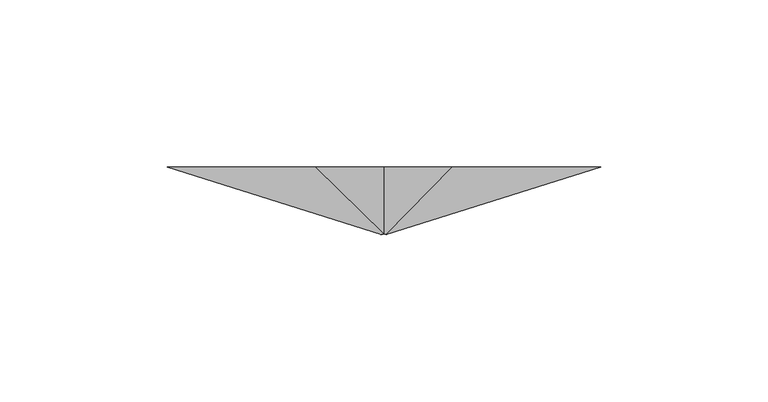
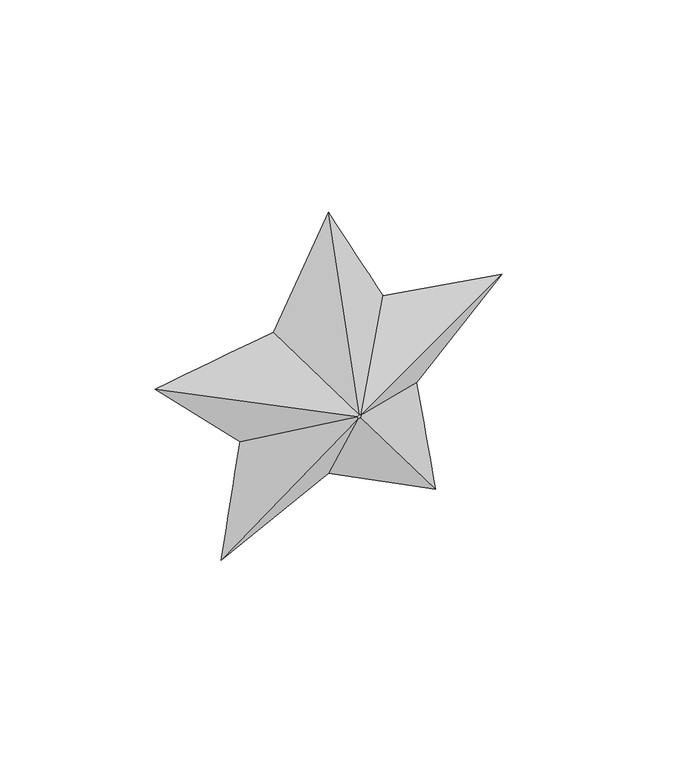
"""IFC4 building model written with IfcOpenShell, lengths in millimetres: furniture geometry, Гирлянда_звездочки_world_of_REVIT : Гирлянда звездочки_world_of_REVIT."""

import ifcopenshell
import ifcopenshell.guid

model = None  # the IFC model being written
_history = None  # IfcOwnerHistory: only IFC2X3 demands one
_inside = {}  # id of a spatial element -> (the spatial element, [elements in it])
_under = {}  # id of a project, library or spatial element -> (it, [spatial elements below it])
_declared = {}  # id of a project -> (the project, [libraries it declares])
_typed = {}  # id of a type object -> (the type object, [elements of that type])
_made_of = {}  # id of a material, layer set ... -> (it, [elements and type objects made of it])


def new_model(schema):
    """Start an empty IFC model of exactly this schema.

    Asked for "IFC4X3", IfcOpenShell would pick the latest addendum, in which some entities
    have other attributes; the version numbers below select the first issue.
    IFC2X3 requires an IfcOwnerHistory on every rooted entity: one is made here for all.
    """
    global model, _history
    if schema == "IFC4X3":
        model = ifcopenshell.file(schema_version=(4, 3, 0, 0))
    else:
        model = ifcopenshell.file(schema=schema)
    _inside.clear()
    _under.clear()
    _declared.clear()
    _typed.clear()
    _made_of.clear()
    _history = None
    if model.schema == "IFC2X3":
        org = make("IfcOrganization", Name="unknown")
        user = make(
            "IfcPersonAndOrganization",
            ThePerson=make("IfcPerson", FamilyName="unknown"),
            TheOrganization=org,
        )
        app = make(
            "IfcApplication",
            ApplicationDeveloper=org,
            Version="unknown",
            ApplicationFullName="unknown",
            ApplicationIdentifier="unknown",
        )
        _history = make(
            "IfcOwnerHistory",
            OwningUser=user,
            OwningApplication=app,
            ChangeAction="ADDED",
            CreationDate=0,
        )
    return model


def make(cls, **values):
    """One entity of the class cls with the attributes given. An attribute that is None is left unset."""
    return model.create_entity(
        cls, **{name: value for name, value in values.items() if value is not None}
    )


def rooted(cls, **values):
    """An entity with a GlobalId (a new one), such as an element, a storey or a relation."""
    return make(cls, GlobalId=ifcopenshell.guid.new(), OwnerHistory=_history, **values)


def si_unit(unit_type, name, prefix=None):
    """IfcSIUnit, for example si_unit("LENGTHUNIT", "METRE", prefix="MILLI")."""
    return make("IfcSIUnit", UnitType=unit_type, Prefix=prefix, Name=name)


def assignment(units):
    """IfcUnitAssignment: the units of a project."""
    return None if units is None else make("IfcUnitAssignment", Units=units)


def point(xyz):
    """IfcCartesianPoint."""
    return None if xyz is None else make("IfcCartesianPoint", Coordinates=xyz)


def direction(xyz):
    """IfcDirection."""
    return None if xyz is None else make("IfcDirection", DirectionRatios=xyz)


def frame(location, z_axis=None, x_axis=None):
    """IfcAxis2Placement3D, a coordinate frame: its origin and axes. An axis left out is left unset."""
    return make(
        "IfcAxis2Placement3D",
        Location=point(location),
        Axis=direction(z_axis),
        RefDirection=direction(x_axis),
    )


def origin():
    """The frame at (0, 0, 0) with its axes left unset."""
    return frame((0.0, 0.0, 0.0))


def place(relative_to, where):
    """IfcLocalPlacement: puts the frame where relative to a parent placement (None: the world)."""
    return make(
        "IfcLocalPlacement", PlacementRelTo=relative_to, RelativePlacement=where
    )


def context(
    kind, dimensions, precision=None, world=None, true_north=None, identifier=None
):
    """IfcGeometricRepresentationContext, for example the 3D "Model" context."""
    return make(
        "IfcGeometricRepresentationContext",
        ContextIdentifier=identifier,
        ContextType=kind,
        CoordinateSpaceDimension=dimensions,
        Precision=precision,
        WorldCoordinateSystem=world,
        TrueNorth=true_north,
    )


def project(units=None, contexts=None):
    """IfcProject with its units and contexts."""
    return rooted(
        "IfcProject",
        Name="project",
        RepresentationContexts=contexts,
        UnitsInContext=assignment(units),
    )


def spatial(cls, under=None, at=None, **own):
    """A site, building, storey or space (cls), placed at a placement, below another one or the project."""
    s = rooted(cls, ObjectPlacement=at, **own)
    if under is not None:
        _under.setdefault(under.id(), (under, []))[1].append(s)
    return s


def shape(context_of_items, identifier, shape_type, items):
    """IfcShapeRepresentation: the items that make up one representation, for example the "Body"."""
    return make(
        "IfcShapeRepresentation",
        ContextOfItems=context_of_items,
        RepresentationIdentifier=identifier,
        RepresentationType=shape_type,
        Items=items,
    )


def source(mapping_origin, context_of_items, identifier, shape_type, items):
    """IfcRepresentationMap: a shape defined once, which mapped items show again and again."""
    return make(
        "IfcRepresentationMap",
        MappingOrigin=mapping_origin,
        MappedRepresentation=shape(context_of_items, identifier, shape_type, items),
    )


def transform(
    local_origin,
    x_axis=None,
    y_axis=None,
    z_axis=None,
    scale=None,
    scale2=None,
    scale3=None,
    uniform=True,
):
    """IfcCartesianTransformationOperator3D, or its non-uniform kind. x_axis, y_axis, z_axis: its Axis1, 2, 3."""
    if uniform:
        return make(
            "IfcCartesianTransformationOperator3D",
            Axis1=direction(x_axis),
            Axis2=direction(y_axis),
            LocalOrigin=point(local_origin),
            Scale=scale,
            Axis3=direction(z_axis),
        )
    return make(
        "IfcCartesianTransformationOperator3DnonUniform",
        Axis1=direction(x_axis),
        Axis2=direction(y_axis),
        LocalOrigin=point(local_origin),
        Scale=scale,
        Axis3=direction(z_axis),
        Scale2=scale2,
        Scale3=scale3,
    )


def mapped(mapping_source, mapping_target):
    """IfcMappedItem: shows the shape of a source again, moved by a transform."""
    return make(
        "IfcMappedItem", MappingSource=mapping_source, MappingTarget=mapping_target
    )


def made_of(thing, what):
    """Note that an element or type object is made of a material, layer set ...; save() writes the relation."""
    if what is not None:
        _made_of.setdefault(what.id(), (what, []))[1].append(thing)
    return thing


def element(
    cls,
    number,
    at=None,
    inside=None,
    cuts=None,
    type_object=None,
    material=None,
    context=None,
    identifier="Body",
    shape_type=None,
    held_by="IfcProductDefinitionShape",
    body=None,
    shapes=None,
    **own,
):
    """One element of the class cls, such as IfcWall. Its Tag is "e" and its number.

    at: its placement. inside: the storey or other place that contains it. cuts: it is an
    opening in that element (IfcRelVoidsElement). A single representation is given by context,
    identifier, shape_type and body (its items); several are given by shapes. held_by: the class
    of the entity that holds the representations. save() writes the other relations.
    """
    e = rooted(cls, Tag="e%d" % number, ObjectPlacement=at, **own)
    if body is not None:
        shapes = [shape(context, identifier, shape_type, body)]
    if shapes is not None:
        e.Representation = make(held_by, Representations=shapes)
    if inside is not None:
        _inside.setdefault(inside.id(), (inside, []))[1].append(e)
    if cuts is not None:
        rooted(
            "IfcRelVoidsElement", RelatingBuildingElement=cuts, RelatedOpeningElement=e
        )
    if type_object is not None:
        _typed.setdefault(type_object.id(), (type_object, []))[1].append(e)
    return made_of(e, material)


def aggregate(whole, parts):
    """IfcRelAggregates: a whole, such as a stair, and the parts it consists of."""
    return rooted("IfcRelAggregates", RelatingObject=whole, RelatedObjects=parts)


def save(model, path):
    """Write the relations noted so far, then the file.

    IfcRelAggregates (storeys below a building ...), IfcRelContainedInSpatialStructure (elements
    in a storey), IfcRelDefinesByType, IfcRelAssociatesMaterial and IfcRelDeclares: one each for
    every whole, place, type object, material and project.
    """
    for whole, parts in _under.values():
        aggregate(whole, parts)
    for where, things in _inside.values():
        rooted(
            "IfcRelContainedInSpatialStructure",
            RelatedElements=things,
            RelatingStructure=where,
        )
    for kind, things in _typed.values():
        rooted("IfcRelDefinesByType", RelatedObjects=things, RelatingType=kind)
    for what, things in _made_of.values():
        rooted("IfcRelAssociatesMaterial", RelatedObjects=things, RelatingMaterial=what)
    for by, libraries in _declared.values():
        rooted("IfcRelDeclares", RelatingContext=by, RelatedDefinitions=libraries)
    model.write(path)


def plane_surface(at):
    """IfcPlane: the flat surface through the origin of the frame at, square to its z axis."""
    return make("IfcPlane", Position=at)


def spline_surface(u_degree, v_degree, points, u_multiplicities, v_multiplicities, u_knots, v_knots, weights=None):
    """IfcBSplineSurfaceWithKnots; with weights, IfcRationalBSplineSurfaceWithKnots. points: one row for each step in u."""
    own = dict(
        UDegree=u_degree,
        VDegree=v_degree,
        ControlPointsList=[[point(p) for p in row] for row in points],
        SurfaceForm="UNSPECIFIED",
        UClosed=False,
        VClosed=False,
        SelfIntersect=False,
        UMultiplicities=u_multiplicities,
        VMultiplicities=v_multiplicities,
        UKnots=u_knots,
        VKnots=v_knots,
        KnotSpec="UNSPECIFIED",
    )
    if weights is None:
        return make("IfcBSplineSurfaceWithKnots", **own)
    return make("IfcRationalBSplineSurfaceWithKnots", WeightsData=weights, **own)


def advanced_brep(points, edges, surfaces, faces):
    """IfcAdvancedBrep: a solid bounded by faces that lie on surfaces and meet in shared edges.

    An edge is (start, end): straight between two places in points (the first is 0);
    or (start, end, curve); or (start, end, curve, False) where it runs against its curve.
    A face is (place in surfaces, loops), or (place, loops, False) where it looks against
    its surface's normal. A loop lists edges by number (the first is 1), with a minus sign
    where the edge is run from its end to its start. The first loop is the outer one.
    """
    corners = [point(p) for p in points]
    vertices = [make("IfcVertexPoint", VertexGeometry=c) for c in corners]
    made = []
    for start, end, *more in edges:
        made.append(
            make(
                "IfcEdgeCurve",
                EdgeStart=vertices[start],
                EdgeEnd=vertices[end],
                EdgeGeometry=more[0] if more else make("IfcPolyline", Points=[corners[start], corners[end]]),
                SameSense=more[1] if len(more) > 1 else True,
            )
        )
    hull = []
    for where, loops, *sense in faces:
        bounds = []
        for j, loop in enumerate(loops):
            ring = [make("IfcOrientedEdge", EdgeElement=made[abs(k) - 1], Orientation=k > 0) for k in loop]
            bounds.append(
                make(
                    "IfcFaceOuterBound" if j == 0 else "IfcFaceBound",
                    Bound=make("IfcEdgeLoop", EdgeList=ring),
                    Orientation=True,
                )
            )
        hull.append(make("IfcAdvancedFace", Bounds=bounds, FaceSurface=surfaces[where], SameSense=sense[0] if sense else True))
    return make("IfcAdvancedBrep", Outer=make("IfcClosedShell", CfsFaces=hull))


def furniture_ccc41857(model_context):
    return source(origin(), model_context, "Body", "AdvancedBrep", [
        advanced_brep(
        [(714.2857143, -20.0, 1636.0659778), (713.52177, -20.0, 1635.5109398), (713.7989963, -20.0, 1634.6352128), (714.7111772, -20.0, 1634.6352128), (715.0028806, -20.0, 1635.544926), (714.2857143, 0.0, 1703.5142923), (734.6430852, 0.0, 1663.5607023), (778.931981, 0.0, 1656.5460303), (747.2246324, 0.0, 1624.8386817), (754.2393043, 0.0, 1580.549786), (714.2857143, 0.0, 1600.9071569), (674.3321242, 0.0, 1580.549786), (681.3467962, 0.0, 1624.8386817), (649.6394476, 0.0, 1656.5460303), (693.9283434, 0.0, 1663.5607023)],
        [
            (0, 1),
            (1, 2),
            (2, 3),
            (3, 4),
            (4, 0),
            (5, 6),
            (6, 7),
            (7, 8),
            (8, 9),
            (9, 10),
            (10, 11),
            (11, 12),
            (12, 13),
            (13, 14),
            (14, 5),
            (12, 1),
            (1, 13),
            (11, 2),
            (10, 2),
            (9, 3),
            (8, 4),
            (7, 4),
            (6, 4),
            (5, 0),
            (14, 0),
        ],
        [
            plane_surface(frame((714.2641077, -20.0, 1635.2784538), z_axis=(0.0, -1.0, 0.0), x_axis=(-0.8090169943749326, 0.0, -0.5877852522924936))),
            plane_surface(frame((714.2857143, 0.0, 1635.541185), z_axis=(0.0, 1.0, 0.0), x_axis=(-0.8090169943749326, 0.0, -0.5877852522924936))),
            plane_surface(frame((665.4931219, 0.0, 1640.692356), z_axis=(-0.38955317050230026, -0.834563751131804, -0.3895531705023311), x_axis=(0.7071067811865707, 0.0, -0.7071067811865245))),
            spline_surface(1, 1, [[(681.3467962, 0.0, 1624.8386817), (713.52177, -20.0, 1635.5109398)], [(674.3321242, 0.0, 1580.549786), (713.7989963, -20.0, 1634.6352128)]], [2, 2], [2, 2], [0.0, 1.0], [0.0, 1.0]),
            plane_surface(frame((694.3089193, 0.0, 1590.7284714), z_axis=(0.2502505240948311, -0.8343572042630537, -0.49114430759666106), x_axis=(0.8910065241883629, 0.0, 0.45399049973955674))),
            spline_surface(1, 1, [[(714.2857143, 0.0, 1600.9071569), (713.7989963, -20.0, 1634.6352128)], [(754.2393043, 0.0, 1580.549786), (714.7111772, -20.0, 1634.6352128)]], [2, 2], [2, 2], [0.0, 1.0], [0.0, 1.0]),
            spline_surface(1, 1, [[(754.2393043, 0.0, 1580.549786), (714.7111772, -20.0, 1634.6352128)], [(747.2246324, 0.0, 1624.8386817), (715.0028806, -20.0, 1635.544926)]], [2, 2], [2, 2], [0.0, 1.0], [0.0, 1.0]),
            plane_surface(frame((763.0783067, 0.0, 1640.692356), z_axis=(0.38904227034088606, -0.8350402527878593, -0.38904227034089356), x_axis=(0.7071067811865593, 0.0, 0.7071067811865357))),
            plane_surface(frame((756.7875331, 0.0, 1660.0533663), z_axis=(0.08530557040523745, -0.8382332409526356, 0.538598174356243), x_axis=(-0.9876883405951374, 0.0, 0.1564344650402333))),
            spline_surface(1, 1, [[(734.6430852, 0.0, 1663.5607023), (715.0028806, -20.0, 1635.544926)], [(714.2857143, 0.0, 1703.5142923), (714.2857143, -20.0, 1636.0659778)]], [2, 2], [2, 2], [0.0, 1.0], [0.0, 1.0]),
            plane_surface(frame((704.1070288, 0.0, 1683.5374973), z_axis=(-0.48723827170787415, -0.8372369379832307, 0.24826029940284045), x_axis=(-0.45399049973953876, 0.0, -0.891006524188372))),
            spline_surface(1, 1, [[(693.9283434, 0.0, 1663.5607023), (714.2857143, -20.0, 1636.0659778)], [(649.6394476, 0.0, 1656.5460303), (713.52177, -20.0, 1635.5109398)]], [2, 2], [2, 2], [0.0, 1.0], [0.0, 1.0]),
        ],
        [
            (0, [[1, 2, 3, 4, 5]]),
            (1, [[6, 7, 8, 9, 10, 11, 12, 13, 14, 15]]),
            (2, [[-13, 16, 17]]),
            (3, [[-12, 18, -2, -16]]),
            (4, [[-11, 19, -18]]),
            (5, [[-10, 20, -3, -19]]),
            (6, [[-9, 21, -4, -20]]),
            (7, [[-8, 22, -21]]),
            (8, [[-7, 23, -22]]),
            (9, [[-6, 24, -5, -23]]),
            (10, [[-15, 25, -24]]),
            (11, [[-14, -17, -1, -25]]),
        ],
    ),
    ])


if __name__ == "__main__":
    model = new_model("IFC4")
    model_context = context("Model", 3, world=origin())
    ifc_project = project(units=[si_unit("LENGTHUNIT", "METRE", prefix="MILLI")], contexts=[model_context])
    site = spatial("IfcSite", under=ifc_project)
    building = spatial("IfcBuilding", under=site)
    placement = place(None, origin())
    furniture_shape = furniture_ccc41857(model_context)
    element("IfcFurniture", 1, ObjectType="Гирлянда_звездочки_world_of_REVIT : Гирлянда звездочки_world_of_REVIT", at=placement, inside=building, context=model_context, shape_type="MappedRepresentation", body=[
        mapped(furniture_shape, transform((0.0, 0.0, 0.0), x_axis=(1.0, 0.0, 0.0), y_axis=(0.0, 1.0, 0.0), z_axis=(0.0, 0.0, 1.0))),
    ])
    save(model, "model.ifc")
